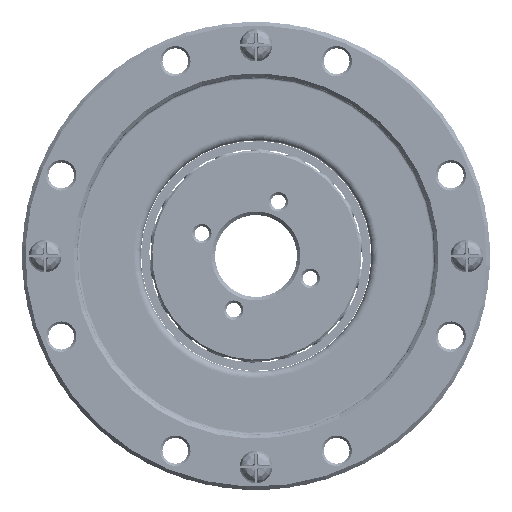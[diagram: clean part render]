
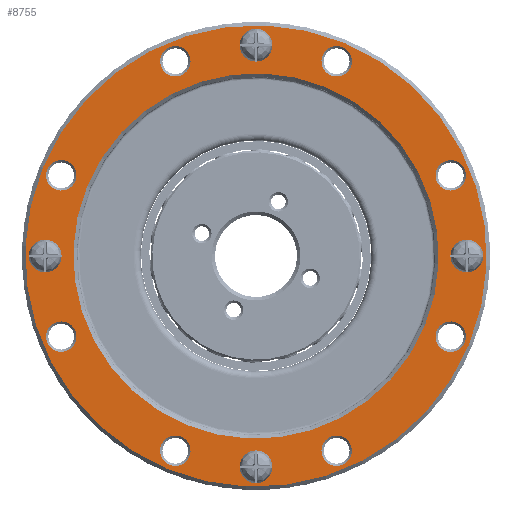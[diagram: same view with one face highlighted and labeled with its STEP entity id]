
A CAD part, left-side view. The second image highlights one B-rep face of the part: STEP entity #8755.
In plain terms, the highlighted planar face has unit normal (-1, 0, 0).
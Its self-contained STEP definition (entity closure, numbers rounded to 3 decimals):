
#385=FACE_BOUND('',#12768,.T.);
#386=FACE_BOUND('',#12769,.T.);
#387=FACE_BOUND('',#12770,.T.);
#388=FACE_BOUND('',#12771,.T.);
#389=FACE_BOUND('',#12772,.T.);
#390=FACE_BOUND('',#12773,.T.);
#391=FACE_BOUND('',#12774,.T.);
#392=FACE_BOUND('',#12775,.T.);
#393=FACE_BOUND('',#12776,.T.);
#394=FACE_BOUND('',#12777,.T.);
#395=FACE_BOUND('',#12778,.T.);
#396=FACE_BOUND('',#12779,.T.);
#397=FACE_BOUND('',#12780,.T.);
#398=FACE_BOUND('',#12781,.T.);
#7084=PLANE('',#34446);
#8755=ADVANCED_FACE('',(#385,#386,#387,#388,#389,#390,#391,#392,#393,#394,
#395,#396,#397,#398),#7084,.F.);
#12768=EDGE_LOOP('',(#21197));
#12769=EDGE_LOOP('',(#21198));
#12770=EDGE_LOOP('',(#21199));
#12771=EDGE_LOOP('',(#21200));
#12772=EDGE_LOOP('',(#21201));
#12773=EDGE_LOOP('',(#21202));
#12774=EDGE_LOOP('',(#21203));
#12775=EDGE_LOOP('',(#21204));
#12776=EDGE_LOOP('',(#21205));
#12777=EDGE_LOOP('',(#21206));
#12778=EDGE_LOOP('',(#21207));
#12779=EDGE_LOOP('',(#21208));
#12780=EDGE_LOOP('',(#21209));
#12781=EDGE_LOOP('',(#21210));
#21197=ORIENTED_EDGE('',*,*,#29637,.T.);
#21198=ORIENTED_EDGE('',*,*,#29638,.T.);
#21199=ORIENTED_EDGE('',*,*,#29639,.T.);
#21200=ORIENTED_EDGE('',*,*,#29640,.T.);
#21201=ORIENTED_EDGE('',*,*,#29641,.T.);
#21202=ORIENTED_EDGE('',*,*,#29642,.T.);
#21203=ORIENTED_EDGE('',*,*,#29643,.T.);
#21204=ORIENTED_EDGE('',*,*,#29644,.T.);
#21205=ORIENTED_EDGE('',*,*,#29645,.T.);
#21206=ORIENTED_EDGE('',*,*,#29646,.T.);
#21207=ORIENTED_EDGE('',*,*,#29647,.T.);
#21208=ORIENTED_EDGE('',*,*,#29648,.T.);
#21209=ORIENTED_EDGE('',*,*,#29649,.F.);
#21210=ORIENTED_EDGE('',*,*,#29636,.T.);
#25147=VERTEX_POINT('',#147093);
#25148=VERTEX_POINT('',#147096);
#25149=VERTEX_POINT('',#147098);
#25150=VERTEX_POINT('',#147100);
#25151=VERTEX_POINT('',#147102);
#25152=VERTEX_POINT('',#147104);
#25153=VERTEX_POINT('',#147106);
#25154=VERTEX_POINT('',#147108);
#25155=VERTEX_POINT('',#147110);
#25156=VERTEX_POINT('',#147112);
#25157=VERTEX_POINT('',#147114);
#25158=VERTEX_POINT('',#147116);
#25159=VERTEX_POINT('',#147118);
#25160=VERTEX_POINT('',#147120);
#29636=EDGE_CURVE('',#25147,#25147,#31507,.T.);
#29637=EDGE_CURVE('',#25148,#25148,#31508,.T.);
#29638=EDGE_CURVE('',#25149,#25149,#31509,.T.);
#29639=EDGE_CURVE('',#25150,#25150,#31510,.T.);
#29640=EDGE_CURVE('',#25151,#25151,#31511,.T.);
#29641=EDGE_CURVE('',#25152,#25152,#31512,.T.);
#29642=EDGE_CURVE('',#25153,#25153,#31513,.T.);
#29643=EDGE_CURVE('',#25154,#25154,#31514,.T.);
#29644=EDGE_CURVE('',#25155,#25155,#31515,.T.);
#29645=EDGE_CURVE('',#25156,#25156,#31516,.T.);
#29646=EDGE_CURVE('',#25157,#25157,#31517,.T.);
#29647=EDGE_CURVE('',#25158,#25158,#31518,.T.);
#29648=EDGE_CURVE('',#25159,#25159,#31519,.T.);
#29649=EDGE_CURVE('',#25160,#25160,#31520,.T.);
#31507=CIRCLE('',#34431,19.7);
#31508=CIRCLE('',#34433,1.3);
#31509=CIRCLE('',#34434,1.3);
#31510=CIRCLE('',#34435,1.3);
#31511=CIRCLE('',#34436,1.3);
#31512=CIRCLE('',#34437,1.3);
#31513=CIRCLE('',#34438,1.3);
#31514=CIRCLE('',#34439,1.3);
#31515=CIRCLE('',#34440,1.3);
#31516=CIRCLE('',#34441,1.3);
#31517=CIRCLE('',#34442,1.3);
#31518=CIRCLE('',#34443,1.3);
#31519=CIRCLE('',#34444,1.3);
#31520=CIRCLE('',#34445,15.6);
#34431=AXIS2_PLACEMENT_3D('',#147092,#41662,#41663);
#34433=AXIS2_PLACEMENT_3D('',#147095,#41666,#41667);
#34434=AXIS2_PLACEMENT_3D('',#147097,#41668,#41669);
#34435=AXIS2_PLACEMENT_3D('',#147099,#41670,#41671);
#34436=AXIS2_PLACEMENT_3D('',#147101,#41672,#41673);
#34437=AXIS2_PLACEMENT_3D('',#147103,#41674,#41675);
#34438=AXIS2_PLACEMENT_3D('',#147105,#41676,#41677);
#34439=AXIS2_PLACEMENT_3D('',#147107,#41678,#41679);
#34440=AXIS2_PLACEMENT_3D('',#147109,#41680,#41681);
#34441=AXIS2_PLACEMENT_3D('',#147111,#41682,#41683);
#34442=AXIS2_PLACEMENT_3D('',#147113,#41684,#41685);
#34443=AXIS2_PLACEMENT_3D('',#147115,#41686,#41687);
#34444=AXIS2_PLACEMENT_3D('',#147117,#41688,#41689);
#34445=AXIS2_PLACEMENT_3D('',#147119,#41690,#41691);
#34446=AXIS2_PLACEMENT_3D('',#147121,#41692,#41693);
#41662=DIRECTION('',(-1.,0.,0.));
#41663=DIRECTION('',(0.,0.924,0.383));
#41666=DIRECTION('',(1.,0.,0.));
#41667=DIRECTION('',(0.,-0.924,-0.383));
#41668=DIRECTION('',(1.,0.,0.));
#41669=DIRECTION('',(0.,-0.924,-0.383));
#41670=DIRECTION('',(1.,0.,0.));
#41671=DIRECTION('',(0.,-0.924,-0.383));
#41672=DIRECTION('',(1.,0.,0.));
#41673=DIRECTION('',(0.,-0.924,-0.383));
#41674=DIRECTION('',(1.,0.,0.));
#41675=DIRECTION('',(0.,-0.924,-0.383));
#41676=DIRECTION('',(1.,0.,0.));
#41677=DIRECTION('',(0.,-0.924,-0.383));
#41678=DIRECTION('',(1.,0.,0.));
#41679=DIRECTION('',(0.,-0.924,-0.383));
#41680=DIRECTION('',(1.,0.,0.));
#41681=DIRECTION('',(0.,-0.924,-0.383));
#41682=DIRECTION('',(1.,0.,0.));
#41683=DIRECTION('',(0.,-0.924,-0.383));
#41684=DIRECTION('',(1.,0.,0.));
#41685=DIRECTION('',(0.,-0.924,-0.383));
#41686=DIRECTION('',(1.,0.,0.));
#41687=DIRECTION('',(0.,-0.924,-0.383));
#41688=DIRECTION('',(1.,0.,0.));
#41689=DIRECTION('',(0.,-0.924,-0.383));
#41690=DIRECTION('',(-1.,0.,0.));
#41691=DIRECTION('',(0.,0.924,0.383));
#41692=DIRECTION('',(1.,0.,0.));
#41693=DIRECTION('',(0.,-0.924,-0.383));
#147092=CARTESIAN_POINT('',(-10.75,0.,0.));
#147093=CARTESIAN_POINT('',(-10.75,18.2,7.539));
#147095=CARTESIAN_POINT('',(-10.75,-18.,0.));
#147096=CARTESIAN_POINT('',(-10.75,-19.201,-0.497));
#147097=CARTESIAN_POINT('',(-10.75,0.,18.));
#147098=CARTESIAN_POINT('',(-10.75,-1.201,17.503));
#147099=CARTESIAN_POINT('',(-10.75,18.,0.));
#147100=CARTESIAN_POINT('',(-10.75,16.799,-0.497));
#147101=CARTESIAN_POINT('',(-10.75,-6.888,-16.63));
#147102=CARTESIAN_POINT('',(-10.75,-8.089,-17.127));
#147103=CARTESIAN_POINT('',(-10.75,-16.63,-6.888));
#147104=CARTESIAN_POINT('',(-10.75,-17.831,-7.386));
#147105=CARTESIAN_POINT('',(-10.75,-16.63,6.888));
#147106=CARTESIAN_POINT('',(-10.75,-17.831,6.391));
#147107=CARTESIAN_POINT('',(-10.75,-6.888,16.63));
#147108=CARTESIAN_POINT('',(-10.75,-8.089,16.132));
#147109=CARTESIAN_POINT('',(-10.75,6.888,16.63));
#147110=CARTESIAN_POINT('',(-10.75,5.687,16.132));
#147111=CARTESIAN_POINT('',(-10.75,16.63,6.888));
#147112=CARTESIAN_POINT('',(-10.75,15.429,6.391));
#147113=CARTESIAN_POINT('',(-10.75,16.63,-6.888));
#147114=CARTESIAN_POINT('',(-10.75,15.429,-7.386));
#147115=CARTESIAN_POINT('',(-10.75,0.,-18.));
#147116=CARTESIAN_POINT('',(-10.75,-1.201,-18.497));
#147117=CARTESIAN_POINT('',(-10.75,6.888,-16.63));
#147118=CARTESIAN_POINT('',(-10.75,5.687,-17.127));
#147119=CARTESIAN_POINT('',(-10.75,0.,0.));
#147120=CARTESIAN_POINT('',(-10.75,14.413,5.97));
#147121=CARTESIAN_POINT('',(-10.75,7.539,-18.2));
